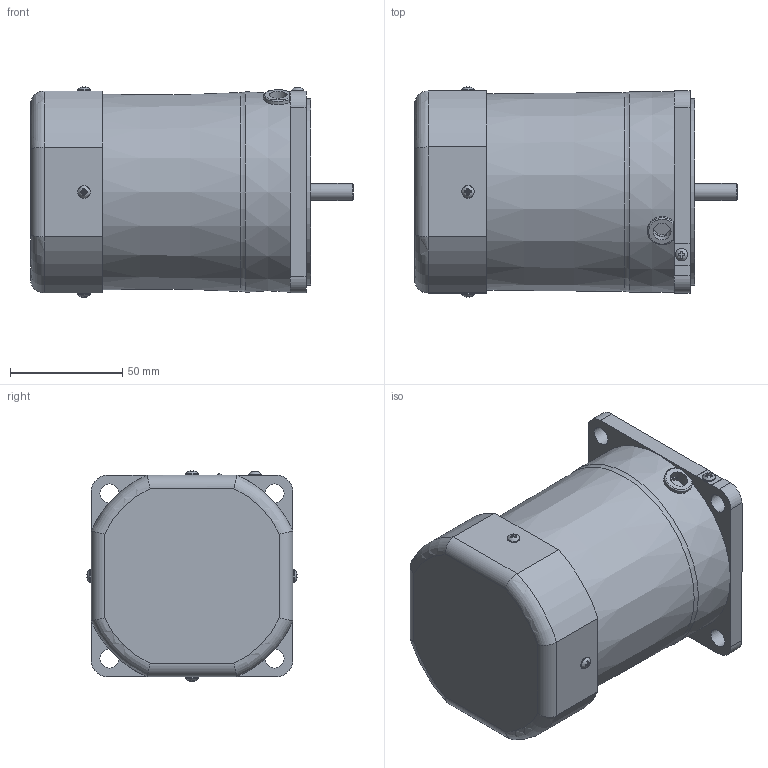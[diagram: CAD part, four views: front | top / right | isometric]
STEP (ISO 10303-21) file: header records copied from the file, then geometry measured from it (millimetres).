
FILE_DESCRIPTION(/* description */ (''),/* implementation_level */ '2;1');
FILE_NAME(/* name */ 'Y:\제품연구개발\3. 도면\3. 고객배포용\3D_홈페이지용\01-1 Standard AC SG Series\0704) 미주향 SG 도면\3D MOTOR\REVERSIBLE\SG9R60G\SG9R60G.stp',/* time_stamp */ '2023-11-23T10:37:48+09:00',/* author */ ('shyi1037'),/* organization */ (''),/* preprocessor_version */ 'ST-DEVELOPER v18.1',/* originating_system */ 'Autodesk Inventor 2022',/* authorisation */ '');
FILE_SCHEMA (('AUTOMOTIVE_DESIGN { 1 0 10303 214 3 1 1 }'));
Length unit declared in the file: millimetre
Products named in the file (5): S9I60G_Ciam; S9I60GㅁCE; 6_CORD BUSH; FAN COVER; S9_60_HOUSING A
Assembly tree (4 placements, depth 2):
  S9I60G_Ciam
    S9I60GㅁCE
    6_CORD BUSH
    FAN COVER
    S9_60_HOUSING A
Bounding box: 143.9 x 93.89 x 93.89 mm (x, y, z)
Volume: 872785.8 mm3; surface area: 85207.6 mm2
Topology: 4 solids, 8 shells, 208 faces, 523 edges, 344 vertices
Faces by surface type: plane 130, cylinder 49, torus 14, cone 10, bspline 5
Full cylindrical faces by diameter (mm): 3 x8, 3.5 x4, 5.6 x5, 7.62 x1, 8 x1, 8.5 x4, 10 x1, 40 x1, 83 x1, 86 x1
Entity records: 7042 total; most frequent: CARTESIAN_POINT 1875, ORIENTED_EDGE 1046, DIRECTION 1008, EDGE_CURVE 523, AXIS2_PLACEMENT_3D 364, VERTEX_POINT 344, LINE 280, VECTOR 280
